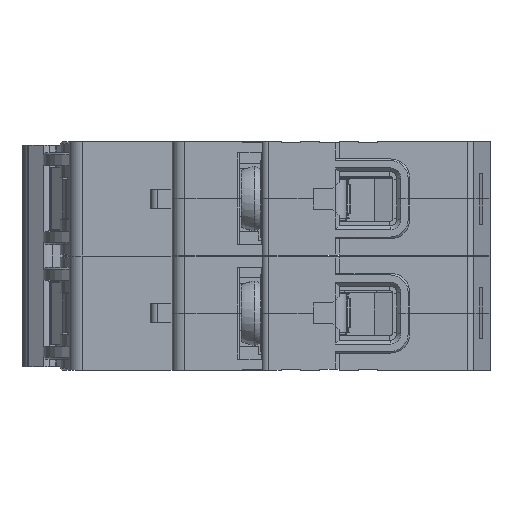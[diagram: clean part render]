
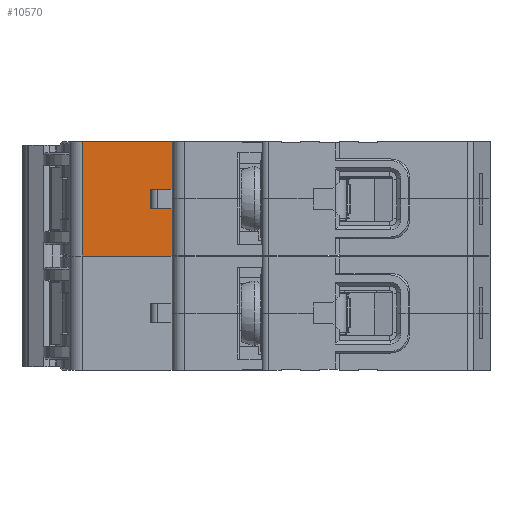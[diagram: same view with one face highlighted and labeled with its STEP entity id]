
A CAD part, left-side view. The second image highlights one B-rep face of the part: STEP entity #10570.
In plain terms, the highlighted planar face has unit normal (-1, 0, 0).
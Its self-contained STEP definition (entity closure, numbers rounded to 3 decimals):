
#393 = EDGE_CURVE ( 'NONE', #4185, #37421, #48060, .T. ) ;
#4185 = VERTEX_POINT ( 'NONE', #49799 ) ;
#4839 = VECTOR ( 'NONE', #46115, 1000. ) ;
#4851 = VECTOR ( 'NONE', #11315, 1000. ) ;
#6765 = DIRECTION ( 'NONE',  ( 0., 0., 1. ) ) ;
#8906 = CARTESIAN_POINT ( 'NONE',  ( -18.5, 44., 7.25 ) ) ;
#9025 = ORIENTED_EDGE ( 'NONE', *, *, #47745, .F. ) ;
#10125 = CARTESIAN_POINT ( 'NONE',  ( -18.5, 58., 17.65 ) ) ;
#10146 = CARTESIAN_POINT ( 'NONE',  ( -18.5, 44., 7.25 ) ) ;
#10419 = LINE ( 'NONE', #40235, #13689 ) ;
#10530 = EDGE_CURVE ( 'NONE', #53267, #4185, #15155, .T. ) ;
#10570 = ADVANCED_FACE ( 'NONE', ( #53244 ), #53789, .F. ) ;
#10576 = VECTOR ( 'NONE', #42138, 1000. ) ;
#10914 = CARTESIAN_POINT ( 'NONE',  ( -18.5, -62.085, -0.15 ) ) ;
#11158 = EDGE_CURVE ( 'NONE', #32649, #39374, #10419, .T. ) ;
#11315 = DIRECTION ( 'NONE',  ( 0., 0., -1. ) ) ;
#11438 = ORIENTED_EDGE ( 'NONE', *, *, #49953, .F. ) ;
#12526 = ORIENTED_EDGE ( 'NONE', *, *, #393, .F. ) ;
#13689 = VECTOR ( 'NONE', #19510, 1000. ) ;
#13925 = VECTOR ( 'NONE', #18571, 1000. ) ;
#14321 = CARTESIAN_POINT ( 'NONE',  ( -18.5, 44., -0.15 ) ) ;
#14709 = DIRECTION ( 'NONE',  ( 1., 0., 0. ) ) ;
#15155 = LINE ( 'NONE', #33925, #10576 ) ;
#16033 = LINE ( 'NONE', #45749, #4839 ) ;
#16047 = DIRECTION ( 'NONE',  ( 0., 1., 0. ) ) ;
#17718 = ORIENTED_EDGE ( 'NONE', *, *, #10530, .F. ) ;
#18571 = DIRECTION ( 'NONE',  ( 0., 1., 0. ) ) ;
#18747 = CARTESIAN_POINT ( 'NONE',  ( -18.5, 44., 10.25 ) ) ;
#19324 = LINE ( 'NONE', #53506, #4851 ) ;
#19510 = DIRECTION ( 'NONE',  ( 0., 0., -1. ) ) ;
#20137 = EDGE_CURVE ( 'NONE', #37421, #48657, #16033, .T. ) ;
#22417 = VERTEX_POINT ( 'NONE', #46861 ) ;
#22889 = CARTESIAN_POINT ( 'NONE',  ( -18.5, 58., -0.15 ) ) ;
#23797 = EDGE_CURVE ( 'NONE', #48657, #39374, #26903, .T. ) ;
#23994 = VECTOR ( 'NONE', #30490, 1000. ) ;
#25690 = EDGE_LOOP ( 'NONE', ( #12526, #17718, #26160, #11438, #9025, #48508, #29836, #51759 ) ) ;
#26160 = ORIENTED_EDGE ( 'NONE', *, *, #32714, .F. ) ;
#26608 = LINE ( 'NONE', #38739, #23994 ) ;
#26903 = LINE ( 'NONE', #10914, #28874 ) ;
#28402 = LINE ( 'NONE', #18747, #13925 ) ;
#28874 = VECTOR ( 'NONE', #16047, 1000. ) ;
#29586 = CARTESIAN_POINT ( 'NONE',  ( -18.5, 44., 10.25 ) ) ;
#29836 = ORIENTED_EDGE ( 'NONE', *, *, #23797, .F. ) ;
#30490 = DIRECTION ( 'NONE',  ( 0., -1., 0. ) ) ;
#31689 = AXIS2_PLACEMENT_3D ( 'NONE', #32090, #14709, #6765 ) ;
#32090 = CARTESIAN_POINT ( 'NONE',  ( -18.5, 60., 1.6 ) ) ;
#32649 = VERTEX_POINT ( 'NONE', #10125 ) ;
#32714 = EDGE_CURVE ( 'NONE', #33015, #53267, #28402, .T. ) ;
#33015 = VERTEX_POINT ( 'NONE', #29586 ) ;
#33925 = CARTESIAN_POINT ( 'NONE',  ( -18.5, 47.3, 7.25 ) ) ;
#37421 = VERTEX_POINT ( 'NONE', #8906 ) ;
#38739 = CARTESIAN_POINT ( 'NONE',  ( -18.5, 58., 17.65 ) ) ;
#39374 = VERTEX_POINT ( 'NONE', #22889 ) ;
#39529 = VECTOR ( 'NONE', #43881, 1000. ) ;
#40235 = CARTESIAN_POINT ( 'NONE',  ( -18.5, 58., 1.6 ) ) ;
#42138 = DIRECTION ( 'NONE',  ( 0., 0., -1. ) ) ;
#43881 = DIRECTION ( 'NONE',  ( 0., -1., 0. ) ) ;
#45697 = CARTESIAN_POINT ( 'NONE',  ( -18.5, 47.3, 10.25 ) ) ;
#45749 = CARTESIAN_POINT ( 'NONE',  ( -18.5, 44., 1.6 ) ) ;
#46115 = DIRECTION ( 'NONE',  ( 0., 0., -1. ) ) ;
#46861 = CARTESIAN_POINT ( 'NONE',  ( -18.5, 44., 17.65 ) ) ;
#47745 = EDGE_CURVE ( 'NONE', #32649, #22417, #26608, .T. ) ;
#48060 = LINE ( 'NONE', #10146, #39529 ) ;
#48508 = ORIENTED_EDGE ( 'NONE', *, *, #11158, .T. ) ;
#48657 = VERTEX_POINT ( 'NONE', #14321 ) ;
#49799 = CARTESIAN_POINT ( 'NONE',  ( -18.5, 47.3, 7.25 ) ) ;
#49953 = EDGE_CURVE ( 'NONE', #22417, #33015, #19324, .T. ) ;
#51759 = ORIENTED_EDGE ( 'NONE', *, *, #20137, .F. ) ;
#53244 = FACE_OUTER_BOUND ( 'NONE', #25690, .T. ) ;
#53267 = VERTEX_POINT ( 'NONE', #45697 ) ;
#53506 = CARTESIAN_POINT ( 'NONE',  ( -18.5, 44., 5.5 ) ) ;
#53789 = PLANE ( 'NONE',  #31689 ) ;
